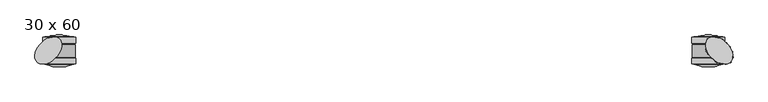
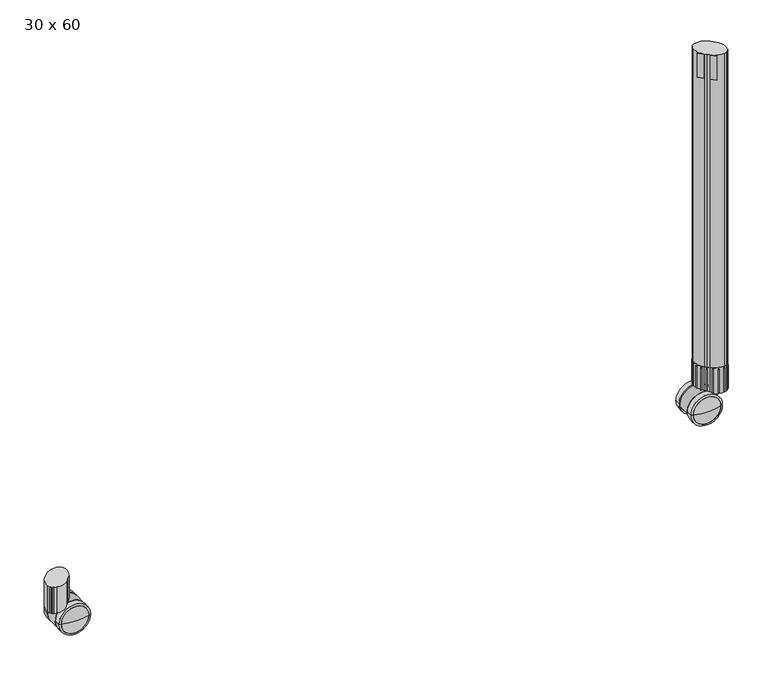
"""IFC4 building model written with IfcOpenShell, lengths in millimetres: furniture geometry, SmithSystem_AM_Desking_Education_Interchange_Student_Activity : 30 x 60."""

from ifc_helpers import new_model, si_unit, point, frame, frame_2d, origin, place, context, project, spatial, polyline, circle_curve, ellipse_curve, trimmed, segment, composite_curve, outline, extrude, source, transform, mapped, element, save
from ifc_brep_helpers import plane_surface, cylinder_surface, revolved_surface, advanced_brep


def furniture_30_x_60_af1b8cdd(model_context):
    return source(origin(), model_context, "Body", "SolidModel", [
        advanced_brep(
        [(1479.3682807, 686.5171568, 35.017382), (1418.7629669, 686.5171568, 35.017382), (1418.7629669, 673.2758867, 35.017382), (1479.3682807, 673.2758867, 35.017382), (1483.6326573, 686.5171568, 35.017382), (1414.4985903, 686.5171568, 35.017382), (1483.6326573, 674.7474734, 35.017382), (1414.4985903, 674.7474734, 35.017382)],
        [
            (0, 1, circle_curve(frame((1449.0656238, 686.5171568, 35.017382), z_axis=(0.0, 1.0, 0.0), x_axis=(-1.0000000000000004, 0.0, 0.0)), 30.3026569)),
            (1, 2),
            (2, 3, circle_curve(frame((1449.0656238, 673.2758867, 35.017382), z_axis=(0.0, -1.0, 0.0), x_axis=(-1.0000000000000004, 0.0, 0.0)), 30.3026569)),
            (3, 0),
            (1, 0, circle_curve(frame((1449.0656238, 686.5171568, 35.017382), z_axis=(0.0, 1.0, 0.0), x_axis=(-1.0000000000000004, 0.0, 0.0)), 30.3026569)),
            (3, 2, circle_curve(frame((1449.0656238, 673.2758867, 35.017382), z_axis=(0.0, -1.0, 0.0), x_axis=(-1.0000000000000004, 0.0, 0.0)), 30.3026569)),
            (4, 5, circle_curve(frame((1449.0656238, 686.5171568, 35.017382), z_axis=(0.0, 1.0, 0.0), x_axis=(-1.0000000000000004, 0.0, 0.0)), 34.5670335)),
            (5, 1),
            (0, 4),
            (5, 4, circle_curve(frame((1449.0656238, 686.5171568, 35.017382), z_axis=(0.0, 1.0, 0.0), x_axis=(-1.0000000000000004, 0.0, 0.0)), 34.5670335)),
            (6, 7, circle_curve(frame((1449.0656238, 674.7474734, 35.017382), z_axis=(0.0, 1.0, 0.0), x_axis=(-1.0000000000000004, 0.0, 0.0)), 34.5670335)),
            (7, 5),
            (4, 6),
            (7, 6, circle_curve(frame((1449.0656238, 674.7474734, 35.017382), z_axis=(0.0, 1.0, 0.0), x_axis=(-1.0000000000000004, 0.0, 0.0)), 34.5670335)),
            (2, 7),
            (6, 3),
        ],
        [
            revolved_surface(polyline([(1418.7629668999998, 673.2758867, 35.017382), (1418.7629668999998, 686.5171568, 35.017382)]), (1449.0656238, 686.5171568, 35.017382), (0.0, -1.0, 0.0)),
            plane_surface(frame((1449.0656238, 686.5171568, 35.017382), z_axis=(0.0, 1.0, 0.0), x_axis=(-1.0, 0.0, 0.0))),
            cylinder_surface(frame((1449.0656238, 686.5171568, 35.017382), z_axis=(0.0, -1.0, 0.0), x_axis=(-1.0000000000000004, 0.0, 0.0)), 34.5670335),
            revolved_surface(polyline([(1414.4985903, 674.7474734, 35.017382), (1418.7629669, 673.2758867, 35.017382)]), (1449.0656238, 686.5171568, 35.017382), (0.0, -1.0, 0.0)),
        ],
        [
            (0, [[1, 2, 3, 4]]),
            (0, [[5, -4, 6, -2]]),
            (1, [[7, 8, -1, 9]]),
            (1, [[10, -9, -5, -8]]),
            (2, [[11, 12, -7, 13]]),
            (2, [[14, -13, -10, -12]]),
            (3, [[-3, 15, -11, 16]]),
            (3, [[-6, -16, -14, -15]]),
        ],
    ),
        advanced_brep(
        [(1483.6326573, 730.1295585, 35.017382), (1414.4985903, 730.1295585, 35.017382), (1418.7629669, 731.6011452, 35.017382), (1479.3682807, 731.6011452, 35.017382), (1483.6326573, 718.3598751, 35.017382), (1414.4985903, 718.3598751, 35.017382), (1479.3682807, 718.3598751, 35.017382), (1418.7629669, 718.3598751, 35.017382)],
        [
            (0, 1, circle_curve(frame((1449.0656238, 730.1295585, 35.017382), z_axis=(0.0, 1.0, 0.0), x_axis=(-1.0000000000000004, 0.0, 0.0)), 34.5670335)),
            (1, 2),
            (2, 3, circle_curve(frame((1449.0656238, 731.6011452, 35.017382), z_axis=(0.0, -1.0, 0.0), x_axis=(-1.0000000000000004, 0.0, 0.0)), 30.3026569)),
            (3, 0),
            (1, 0, circle_curve(frame((1449.0656238, 730.1295585, 35.017382), z_axis=(0.0, 1.0, 0.0), x_axis=(-1.0000000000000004, 0.0, 0.0)), 34.5670335)),
            (3, 2, circle_curve(frame((1449.0656238, 731.6011452, 35.017382), z_axis=(0.0, -1.0, 0.0), x_axis=(-1.0000000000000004, 0.0, 0.0)), 30.3026569)),
            (4, 5, circle_curve(frame((1449.0656238, 718.3598751, 35.017382), z_axis=(0.0, 1.0, 0.0), x_axis=(-1.0000000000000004, 0.0, 0.0)), 34.5670335)),
            (5, 1),
            (0, 4),
            (5, 4, circle_curve(frame((1449.0656238, 718.3598751, 35.017382), z_axis=(0.0, 1.0, 0.0), x_axis=(-1.0000000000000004, 0.0, 0.0)), 34.5670335)),
            (6, 7, circle_curve(frame((1449.0656238, 718.3598751, 35.017382), z_axis=(0.0, 1.0, 0.0), x_axis=(-1.0000000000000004, 0.0, 0.0)), 30.3026569)),
            (7, 5),
            (4, 6),
            (7, 6, circle_curve(frame((1449.0656238, 718.3598751, 35.017382), z_axis=(0.0, 1.0, 0.0), x_axis=(-1.0000000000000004, 0.0, 0.0)), 30.3026569)),
            (2, 7),
            (6, 3),
        ],
        [
            revolved_surface(polyline([(1418.7629669, 731.6011452, 35.017382), (1414.4985903, 730.1295585, 35.017382)]), (1449.0656238, 686.5171568, 35.017382), (0.0, -1.0, 0.0)),
            cylinder_surface(frame((1449.0656238, 686.5171568, 35.017382), z_axis=(0.0, -1.0, 0.0), x_axis=(-1.0000000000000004, 0.0, 0.0)), 34.5670335),
            plane_surface(frame((1449.0656238, 718.3598751, 35.017382), z_axis=(0.0, -1.0, 0.0), x_axis=(-1.0, 0.0, 0.0))),
            revolved_surface(polyline([(1418.7629668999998, 718.3598751, 35.017382), (1418.7629668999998, 731.6011452, 35.017382)]), (1449.0656238, 686.5171568, 35.017382), (0.0, -1.0, 0.0)),
        ],
        [
            (0, [[1, 2, 3, 4]]),
            (0, [[5, -4, 6, -2]]),
            (1, [[7, 8, -1, 9]]),
            (1, [[10, -9, -5, -8]]),
            (2, [[11, 12, -7, 13]]),
            (2, [[14, -13, -10, -12]]),
            (3, [[-3, 15, -11, 16]]),
            (3, [[-6, -16, -14, -15]]),
        ],
    ),
        extrude(outline(composite_curve([segment(polyline([(19.2150301, 1452.4697558), (19.2150301, 1479.476395)]), True, "CONTINUOUS"), segment(trimmed(circle_curve(frame_2d((35.017382, 1449.0656238)), 34.2714069), [point((19.2150301, 1479.476395))], [point((30.4371053, 1415.1016665))], False, "CARTESIAN"), True, "CONTINUOUS"), segment(polyline([(30.4371053, 1415.1016665), (25.5146264, 1423.9644339), (25.5146264, 1446.1701594), (19.2150301, 1452.4697558)]), True, "CONTINUOUS")], self_intersect=False)), frame((0.0, 688.2472519, 0.0), z_axis=(0.0, 1.0, 0.0), x_axis=(0.0, 0.0, 1.0)), (0.0, 0.0, 1.0), 26.9875),
        advanced_brep(
        [(1479.3682807, 686.5171568, 35.017382), (1418.7629669, 686.5171568, 35.017382), (1449.0656238, 686.5171568, 35.017382), (1449.0656238, 668.1943698, 35.017382), (1418.7629669, 673.2758867, 35.017382), (1479.3682807, 673.2758867, 35.017382)],
        [
            (0, 1, circle_curve(frame((1449.0656238, 686.5171568, 35.017382), z_axis=(0.0, 1.0, 0.0), x_axis=(-1.0000000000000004, 0.0, 0.0)), 30.3026569)),
            (1, 2),
            (2, 0),
            (1, 0, circle_curve(frame((1449.0656238, 686.5171568, 35.017382), z_axis=(0.0, 1.0, 0.0), x_axis=(-1.0000000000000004, 0.0, 0.0)), 30.3026569)),
            (3, 4, circle_curve(frame((1449.0656238, 761.0871862, 35.017382), z_axis=(0.0, 0.0, -1.0000000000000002), x_axis=(0.0, 1.0, 0.0)), 92.8928164)),
            (4, 5, circle_curve(frame((1449.0656238, 673.2758867, 35.017382), z_axis=(0.0, -1.0, 0.0), x_axis=(-1.0000000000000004, 0.0, 0.0)), 30.3026569)),
            (5, 3, circle_curve(frame((1449.0656238, 761.0871862, 35.017382), z_axis=(0.0, 0.0, -1.0000000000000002), x_axis=(0.0, 1.0, 0.0)), 92.8928164)),
            (5, 4, circle_curve(frame((1449.0656238, 673.2758867, 35.017382), z_axis=(0.0, -1.0, 0.0), x_axis=(-1.0000000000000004, 0.0, 0.0)), 30.3026569)),
            (4, 1),
            (0, 5),
        ],
        [
            plane_surface(frame((1449.0656238, 686.5171568, 35.017382), z_axis=(0.0, 1.0, 0.0), x_axis=(-1.0, 0.0, 0.0))),
            revolved_surface(trimmed(ellipse_curve(frame((1449.0656238, 761.0871862, 35.017382), z_axis=(0.0, 0.0, 1.0000000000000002), x_axis=(0.0, 1.0, 0.0)), 92.8928164, 92.8928164), [point((1418.7629669, 673.2758867, 35.017382))], [point((1449.0656238, 668.1943698, 35.017382))], True, "CARTESIAN"), (1449.0656238, 686.5171568, 35.017382), (0.0, -1.0, 0.0)),
            cylinder_surface(frame((1449.0656238, 686.5171568, 35.017382), z_axis=(0.0, -1.0, 0.0), x_axis=(-1.0000000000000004, 0.0, 0.0)), 30.3026569),
        ],
        [
            (0, [[1, 2, 3]]),
            (0, [[4, -3, -2]]),
            (1, [[5, 6, 7]]),
            (1, [[-7, 8, -5]]),
            (2, [[-6, 9, -1, 10]]),
            (2, [[-8, -10, -4, -9]]),
        ],
    ),
        advanced_brep(
        [(1479.3682807, 717.1194939, 35.017382), (1418.7629669, 717.1194939, 35.017382), (1418.7629669, 730.360764, 35.017382), (1479.3682807, 730.360764, 35.017382), (1449.0656238, 735.4422809, 35.017382), (1449.0656238, 717.1194939, 35.017382)],
        [
            (0, 1, circle_curve(frame((1449.0656238, 717.1194939, 35.017382), z_axis=(0.0, 1.0, 0.0), x_axis=(-1.0000000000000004, 0.0, 0.0)), 30.3026569)),
            (1, 2),
            (2, 3, circle_curve(frame((1449.0656238, 730.360764, 35.017382), z_axis=(0.0, -1.0, 0.0), x_axis=(-1.0000000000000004, 0.0, 0.0)), 30.3026569)),
            (3, 0),
            (1, 0, circle_curve(frame((1449.0656238, 717.1194939, 35.017382), z_axis=(0.0, 1.0, 0.0), x_axis=(-1.0000000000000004, 0.0, 0.0)), 30.3026569)),
            (3, 2, circle_curve(frame((1449.0656238, 730.360764, 35.017382), z_axis=(0.0, -1.0, 0.0), x_axis=(-1.0000000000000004, 0.0, 0.0)), 30.3026569)),
            (2, 4, circle_curve(frame((1449.0656238, 642.5494645, 35.017382), z_axis=(0.0, 0.0, -1.0000000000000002), x_axis=(0.0, 1.0, 0.0)), 92.8928164)),
            (4, 3, circle_curve(frame((1449.0656238, 642.5494645, 35.017382), z_axis=(0.0, 0.0, -1.0000000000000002), x_axis=(0.0, 1.0, 0.0)), 92.8928164)),
            (5, 1),
            (0, 5),
        ],
        [
            cylinder_surface(frame((1449.0656238, 686.5171568, 35.017382), z_axis=(0.0, -1.0, 0.0), x_axis=(-1.0000000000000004, 0.0, 0.0)), 30.3026569),
            revolved_surface(trimmed(ellipse_curve(frame((1449.0656238, 642.5494645, 35.017382), z_axis=(0.0, 0.0, 1.0000000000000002), x_axis=(0.0, 1.0, 0.0)), 92.8928164, 92.8928164), [point((1449.0656238, 735.4422809, 35.017382))], [point((1418.7629669, 730.360764, 35.017382))], True, "CARTESIAN"), (1449.0656238, 686.5171568, 35.017382), (0.0, -1.0, 0.0)),
            plane_surface(frame((1449.0656238, 717.1194939, 35.017382), z_axis=(0.0, -1.0, 0.0), x_axis=(-1.0, 0.0, 0.0))),
        ],
        [
            (0, [[1, 2, 3, 4]]),
            (0, [[5, -4, 6, -2]]),
            (1, [[-3, 7, 8]]),
            (1, [[-6, -8, -7]]),
            (2, [[9, -1, 10]]),
            (2, [[-10, -5, -9]]),
        ],
    ),
        advanced_brep(
        [(1472.3098504, 702.4385159, 82.55), (1457.1881611, 687.3168266, 82.55), (1487.4315397, 717.5602052, 82.55), (1479.1455485, 709.274214, 44.141232), (1465.4741524, 695.6028179, 44.141232), (1472.3098504, 702.4385159, 44.141232), (1479.1455485, 709.274214, 70.5739), (1465.4741524, 695.6028179, 70.5739), (1475.4087581, 705.5374236, 70.5739), (1469.2109428, 699.3396083, 70.5739), (1475.4087581, 705.5374236, 72.4789), (1469.2109428, 699.3396083, 72.4789), (1479.1455485, 709.274214, 72.4789), (1465.4741524, 695.6028179, 72.4789), (1479.1455485, 709.274214, 77.5589), (1465.4741524, 695.6028179, 77.5589), (1487.4315397, 717.5602052, 77.5589), (1457.1881611, 687.3168266, 77.5589)],
        [
            (0, 1),
            (1, 2, circle_curve(frame((1472.3098504, 702.4385159, 82.55), z_axis=(0.0, 0.0, 1.0), x_axis=(-0.7071067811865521, -0.707106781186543, 0.0)), 21.3852981)),
            (2, 0),
            (2, 1, circle_curve(frame((1472.3098504, 702.4385159, 82.55), z_axis=(0.0, 0.0, 1.0), x_axis=(-0.7071067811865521, -0.707106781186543, 0.0)), 21.3852981)),
            (3, 4, circle_curve(frame((1472.3098504, 702.4385159, 44.141232), z_axis=(0.0, 0.0, -1.0), x_axis=(-0.7071067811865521, -0.707106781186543, 0.0)), 9.6671369)),
            (4, 5),
            (5, 3),
            (4, 3, circle_curve(frame((1472.3098504, 702.4385159, 44.141232), z_axis=(0.0, 0.0, -1.0), x_axis=(-0.7071067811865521, -0.707106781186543, 0.0)), 9.6671369)),
            (6, 7, circle_curve(frame((1472.3098504, 702.4385159, 70.5739), z_axis=(0.0, 0.0, -1.0), x_axis=(-0.7071067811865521, -0.707106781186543, 0.0)), 9.6671369)),
            (7, 4),
            (3, 6),
            (7, 6, circle_curve(frame((1472.3098504, 702.4385159, 70.5739), z_axis=(0.0, 0.0, -1.0), x_axis=(-0.7071067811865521, -0.707106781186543, 0.0)), 9.6671369)),
            (8, 9, circle_curve(frame((1472.3098504, 702.4385159, 70.5739), z_axis=(0.0, 0.0, -1.0), x_axis=(-0.7071067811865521, -0.707106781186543, 0.0)), 4.3825172)),
            (9, 7),
            (6, 8),
            (9, 8, circle_curve(frame((1472.3098504, 702.4385159, 70.5739), z_axis=(0.0, 0.0, -1.0), x_axis=(-0.7071067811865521, -0.707106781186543, 0.0)), 4.3825172)),
            (10, 11, circle_curve(frame((1472.3098504, 702.4385159, 72.4789), z_axis=(0.0, 0.0, -1.0), x_axis=(-0.7071067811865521, -0.707106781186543, 0.0)), 4.3825172)),
            (11, 9),
            (8, 10),
            (11, 10, circle_curve(frame((1472.3098504, 702.4385159, 72.4789), z_axis=(0.0, 0.0, -1.0), x_axis=(-0.7071067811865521, -0.707106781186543, 0.0)), 4.3825172)),
            (12, 13, circle_curve(frame((1472.3098504, 702.4385159, 72.4789), z_axis=(0.0, 0.0, -1.0), x_axis=(-0.7071067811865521, -0.707106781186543, 0.0)), 9.6671369)),
            (13, 11),
            (10, 12),
            (13, 12, circle_curve(frame((1472.3098504, 702.4385159, 72.4789), z_axis=(0.0, 0.0, -1.0), x_axis=(-0.7071067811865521, -0.707106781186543, 0.0)), 9.6671369)),
            (14, 15, circle_curve(frame((1472.3098504, 702.4385159, 77.5589), z_axis=(0.0, 0.0, -1.0), x_axis=(-0.7071067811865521, -0.707106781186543, 0.0)), 9.6671369)),
            (15, 13),
            (12, 14),
            (15, 14, circle_curve(frame((1472.3098504, 702.4385159, 77.5589), z_axis=(0.0, 0.0, -1.0), x_axis=(-0.7071067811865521, -0.707106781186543, 0.0)), 9.6671369)),
            (16, 17, circle_curve(frame((1472.3098504, 702.4385159, 77.5589), z_axis=(0.0, 0.0, -1.0), x_axis=(-0.7071067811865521, -0.707106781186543, 0.0)), 21.3852981)),
            (17, 15),
            (14, 16),
            (17, 16, circle_curve(frame((1472.3098504, 702.4385159, 77.5589), z_axis=(0.0, 0.0, -1.0), x_axis=(-0.7071067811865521, -0.707106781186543, 0.0)), 21.3852981)),
            (1, 17),
            (16, 2),
        ],
        [
            plane_surface(frame((1472.3098504, 702.4385159, 82.55), z_axis=(0.0, 0.0, 1.0000000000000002), x_axis=(-0.7071067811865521, -0.707106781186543, 0.0))),
            plane_surface(frame((1472.3098504, 702.4385159, 44.141232), z_axis=(0.0, 0.0, -1.0000000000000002), x_axis=(-0.7071067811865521, -0.707106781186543, 0.0))),
            cylinder_surface(frame((1472.3098504, 702.4385159, 56.841232), z_axis=(0.0, 0.0, 1.0), x_axis=(-0.7071067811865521, -0.707106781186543, 0.0)), 9.6671369),
            plane_surface(frame((1472.3098504, 702.4385159, 70.5739), z_axis=(0.0, 0.0, 1.0000000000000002), x_axis=(-0.7071067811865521, -0.707106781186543, 0.0))),
            cylinder_surface(frame((1472.3098504, 702.4385159, 56.841232), z_axis=(0.0, 0.0, 1.0), x_axis=(-0.7071067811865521, -0.707106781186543, 0.0)), 4.3825172),
            plane_surface(frame((1472.3098504, 702.4385159, 72.4789), z_axis=(0.0, 0.0, -1.0000000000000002), x_axis=(-0.7071067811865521, -0.707106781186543, 0.0))),
            plane_surface(frame((1472.3098504, 702.4385159, 77.5589), z_axis=(0.0, 0.0, -1.0000000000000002), x_axis=(-0.7071067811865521, -0.707106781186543, 0.0))),
            cylinder_surface(frame((1472.3098504, 702.4385159, 56.841232), z_axis=(0.0, 0.0, 1.0), x_axis=(-0.7071067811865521, -0.707106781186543, 0.0)), 21.3852981),
        ],
        [
            (0, [[1, 2, 3]]),
            (0, [[-3, 4, -1]]),
            (1, [[5, 6, 7]]),
            (1, [[8, -7, -6]]),
            (2, [[9, 10, -5, 11]]),
            (2, [[12, -11, -8, -10]]),
            (3, [[13, 14, -9, 15]]),
            (3, [[16, -15, -12, -14]]),
            (4, [[17, 18, -13, 19]]),
            (4, [[20, -19, -16, -18]]),
            (5, [[21, 22, -17, 23]]),
            (5, [[24, -23, -20, -22]]),
            (2, [[25, 26, -21, 27]]),
            (2, [[28, -27, -24, -26]]),
            (6, [[29, 30, -25, 31]]),
            (6, [[32, -31, -28, -30]]),
            (7, [[-2, 33, -29, 34]]),
            (7, [[-4, -34, -32, -33]]),
        ],
    ),
        extrude(outline(composite_curve([segment(trimmed(circle_curve(frame_2d((1476.4964298, 713.8093002)), 32.5855406), [point((1453.4549731, 690.7678435))], [point((1444.1537769, 717.7804787))], False, "CARTESIAN"), True, "CONTINUOUS"), segment(trimmed(circle_curve(frame_2d((1463.6817209, 715.3827486)), 19.6745954), [point((1444.1537769, 717.7804787))], [point((1445.5137305, 722.9334989))], False, "CARTESIAN"), True, "CONTINUOUS"), segment(trimmed(circle_curve(frame_2d((1453.7793536, 719.4982452)), 8.9510611), [point((1445.5137305, 722.9334989))], [point((1447.4499976, 725.8276012))], False, "CARTESIAN"), True, "CONTINUOUS"), segment(polyline([(1447.4499976, 725.8276012), (1448.1853814, 726.5629849), (1448.9207652, 727.2983687)]), True, "CONTINUOUS"), segment(trimmed(circle_curve(frame_2d((1455.2501212, 720.9690127)), 8.9510611), [point((1448.9207652, 727.2983687))], [point((1451.8148675, 729.2346359))], False, "CARTESIAN"), True, "CONTINUOUS"), segment(trimmed(circle_curve(frame_2d((1459.3656177, 711.0666455)), 19.6745954), [point((1451.8148675, 729.2346359))], [point((1456.9678877, 730.5945895))], False, "CARTESIAN"), True, "CONTINUOUS"), segment(trimmed(circle_curve(frame_2d((1460.9390661, 698.2519365)), 32.5855406), [point((1456.9678877, 730.5945895))], [point((1483.9805229, 721.2933933))], False, "CARTESIAN"), True, "CONTINUOUS"), segment(polyline([(1483.9805229, 721.2933933), (1487.5726253, 717.7012908), (1491.1647278, 714.1091884)]), True, "CONTINUOUS"), segment(trimmed(circle_curve(frame_2d((1468.123271, 691.0677316)), 32.5855406), [point((1491.1647278, 714.1091884))], [point((1500.465924, 687.0965532))], False, "CARTESIAN"), True, "CONTINUOUS"), segment(trimmed(circle_curve(frame_2d((1480.93798, 689.4942832)), 19.6745954), [point((1500.465924, 687.0965532))], [point((1499.1059704, 681.943533))], False, "CARTESIAN"), True, "CONTINUOUS"), segment(trimmed(circle_curve(frame_2d((1490.8403472, 685.3787867)), 8.9510611), [point((1499.1059704, 681.943533))], [point((1497.1697032, 679.0494307))], False, "CARTESIAN"), True, "CONTINUOUS"), segment(polyline([(1497.1697032, 679.0494307), (1496.4343195, 678.3140469), (1495.6989357, 677.5786631)]), True, "CONTINUOUS"), segment(trimmed(circle_curve(frame_2d((1489.3695797, 683.9080191)), 8.9510611), [point((1495.6989357, 677.5786631))], [point((1492.8048334, 675.6423959))], False, "CARTESIAN"), True, "CONTINUOUS"), segment(trimmed(circle_curve(frame_2d((1485.2540831, 693.8103864)), 19.6745954), [point((1492.8048334, 675.6423959))], [point((1487.6518132, 674.2824424))], False, "CARTESIAN"), True, "CONTINUOUS"), segment(trimmed(circle_curve(frame_2d((1483.6806347, 706.6250953)), 32.5855406), [point((1487.6518132, 674.2824424))], [point((1460.639178, 683.5836386))], False, "CARTESIAN"), True, "CONTINUOUS"), segment(polyline([(1460.639178, 683.5836386), (1457.0470756, 687.175741), (1453.4549731, 690.7678435)]), True, "CONTINUOUS")], self_intersect=False)), frame((0.0, 0.0, 63.4997351), z_axis=(0.0, 0.0, 1.0), x_axis=(1.0, 0.0, 0.0)), (0.0, 0.0, 1.0), 59.42631),
        extrude(outline(composite_curve([segment(polyline([(1488.4706509, 716.8032652), (1487.5726253, 717.7012908), (1486.6745997, 718.5993164)]), True, "CONTINUOUS"), segment(trimmed(circle_curve(frame_2d((1487.5726253, 717.7012908)), 1.27), [point((1486.6745997, 718.5993164))], [point((1488.4706509, 716.8032652))], False, "CARTESIAN"), True, "CONTINUOUS")], self_intersect=False)), frame((0.0, 0.0, 67.2639757), z_axis=(0.0, 0.0, 1.0), x_axis=(1.0, 0.0, 0.0)), (0.0, 0.0, 1.0), 52.9554897),
        extrude(outline(composite_curve([segment(polyline([(1495.5099845, 677.4423306), (1496.4080101, 678.3403563), (1497.3060357, 679.2383819)]), True, "CONTINUOUS"), segment(trimmed(circle_curve(frame_2d((1496.4080101, 678.3403563)), 1.27), [point((1497.3060357, 679.2383819))], [point((1495.5099845, 677.4423306))], False, "CARTESIAN"), True, "CONTINUOUS")], self_intersect=False)), frame((0.0, 0.0, 67.2639757), z_axis=(0.0, 0.0, 1.0), x_axis=(1.0, 0.0, 0.0)), (0.0, 0.0, 1.0), 52.9554897),
        extrude(outline(composite_curve([segment(trimmed(circle_curve(frame_2d((1448.2116908, 726.5366756)), 1.27), [point((1447.3136652, 725.63865))], [point((1449.1097164, 727.4347012))], False, "CARTESIAN"), True, "CONTINUOUS"), segment(polyline([(1449.1097164, 727.4347012), (1448.2116908, 726.5366756), (1447.3136652, 725.63865)]), True, "CONTINUOUS")], self_intersect=False)), frame((0.0, 0.0, 67.2639757), z_axis=(0.0, 0.0, 1.0), x_axis=(1.0, 0.0, 0.0)), (0.0, 0.0, 1.0), 52.9554897),
        extrude(outline(composite_curve([segment(trimmed(circle_curve(frame_2d((1458.0779787, 730.6574596)), 1.27), [point((1456.8120338, 730.5560515))], [point((1459.3439236, 730.7588676))], False, "CARTESIAN"), True, "CONTINUOUS"), segment(polyline([(1459.3439236, 730.7588676), (1458.0779787, 730.6574596), (1456.8120338, 730.5560515)]), True, "CONTINUOUS")], self_intersect=False)), frame((0.0, 0.0, 67.2639757), z_axis=(0.0, 0.0, 1.0), x_axis=(1.0, 0.0, 0.0)), (0.0, 0.0, 1.0), 52.9554897),
        extrude(outline(composite_curve([segment(trimmed(circle_curve(frame_2d((1469.1209477, 729.7234059)), 1.27), [point((1467.8909581, 730.039674))], [point((1470.3509373, 729.4071377))], False, "CARTESIAN"), True, "CONTINUOUS"), segment(polyline([(1470.3509373, 729.4071377), (1469.1209477, 729.7234059), (1467.8909581, 730.039674)]), True, "CONTINUOUS")], self_intersect=False)), frame((0.0, 0.0, 67.2639757), z_axis=(0.0, 0.0, 1.0), x_axis=(1.0, 0.0, 0.0)), (0.0, 0.0, 1.0), 52.9554897),
        extrude(outline(composite_curve([segment(trimmed(circle_curve(frame_2d((1479.2770478, 725.1239568)), 1.27), [point((1478.2294057, 725.8418329))], [point((1480.3246899, 724.4060807))], False, "CARTESIAN"), True, "CONTINUOUS"), segment(polyline([(1480.3246899, 724.4060807), (1479.2770478, 725.1239568), (1478.2294057, 725.8418329)]), True, "CONTINUOUS")], self_intersect=False)), frame((0.0, 0.0, 67.2639757), z_axis=(0.0, 0.0, 1.0), x_axis=(1.0, 0.0, 0.0)), (0.0, 0.0, 1.0), 52.9554897),
        extrude(outline(composite_curve([segment(polyline([(1500.427386, 686.9406993), (1500.5287941, 688.2066442), (1500.6302021, 689.4725891)]), True, "CONTINUOUS"), segment(trimmed(circle_curve(frame_2d((1500.5287941, 688.2066442)), 1.27), [point((1500.6302021, 689.4725891))], [point((1500.427386, 686.9406993))], False, "CARTESIAN"), True, "CONTINUOUS")], self_intersect=False)), frame((0.0, 0.0, 67.2639757), z_axis=(0.0, 0.0, 1.0), x_axis=(1.0, 0.0, 0.0)), (0.0, 0.0, 1.0), 52.9554897),
        extrude(outline(composite_curve([segment(polyline([(1499.9110085, 698.0196236), (1499.5947404, 699.2496132), (1499.2784722, 700.4796028)]), True, "CONTINUOUS"), segment(trimmed(circle_curve(frame_2d((1499.5947404, 699.2496132)), 1.27), [point((1499.2784722, 700.4796028))], [point((1499.9110085, 698.0196236))], False, "CARTESIAN"), True, "CONTINUOUS")], self_intersect=False)), frame((0.0, 0.0, 67.2639757), z_axis=(0.0, 0.0, 1.0), x_axis=(1.0, 0.0, 0.0)), (0.0, 0.0, 1.0), 52.9554897),
        extrude(outline(composite_curve([segment(polyline([(1495.7131674, 708.3580712), (1494.9952913, 709.4057133), (1494.2774152, 710.4533554)]), True, "CONTINUOUS"), segment(trimmed(circle_curve(frame_2d((1494.9952913, 709.4057133)), 1.27), [point((1494.2774152, 710.4533554))], [point((1495.7131674, 708.3580712))], False, "CARTESIAN"), True, "CONTINUOUS")], self_intersect=False)), frame((0.0, 0.0, 67.2639757), z_axis=(0.0, 0.0, 1.0), x_axis=(1.0, 0.0, 0.0)), (0.0, 0.0, 1.0), 52.9554897),
        extrude(outline(composite_curve([segment(trimmed(circle_curve(frame_2d((1457.0470756, 687.175741)), 1.27), [point((1457.9451012, 686.2777154))], [point((1456.1490499, 688.0737667))], False, "CARTESIAN"), True, "CONTINUOUS"), segment(polyline([(1456.1490499, 688.0737667), (1457.0470756, 687.175741), (1457.9451012, 686.2777154)]), True, "CONTINUOUS")], self_intersect=False)), frame((0.0, 0.0, 67.2639757), z_axis=(0.0, 0.0, 1.0), x_axis=(1.0, 0.0, 0.0)), (0.0, 0.0, 1.0), 52.9554897),
        extrude(outline(composite_curve([segment(polyline([(1444.1923149, 717.9363325), (1444.0909068, 716.6703877), (1443.9894988, 715.4044428)]), True, "CONTINUOUS"), segment(trimmed(circle_curve(frame_2d((1444.0909068, 716.6703877)), 1.27), [point((1443.9894988, 715.4044428))], [point((1444.1923149, 717.9363325))], False, "CARTESIAN"), True, "CONTINUOUS")], self_intersect=False)), frame((0.0, 0.0, 67.2639757), z_axis=(0.0, 0.0, 1.0), x_axis=(1.0, 0.0, 0.0)), (0.0, 0.0, 1.0), 52.9554897),
        extrude(outline(composite_curve([segment(polyline([(1444.7086924, 706.8574083), (1445.0249605, 705.6274187), (1445.3412287, 704.397429)]), True, "CONTINUOUS"), segment(trimmed(circle_curve(frame_2d((1445.0249605, 705.6274187)), 1.27), [point((1445.3412287, 704.397429))], [point((1444.7086924, 706.8574083))], False, "CARTESIAN"), True, "CONTINUOUS")], self_intersect=False)), frame((0.0, 0.0, 67.2639757), z_axis=(0.0, 0.0, 1.0), x_axis=(1.0, 0.0, 0.0)), (0.0, 0.0, 1.0), 52.9554897),
        extrude(outline(composite_curve([segment(polyline([(1448.9065335, 696.5189606), (1449.6244096, 695.4713185), (1450.3422857, 694.4236765)]), True, "CONTINUOUS"), segment(trimmed(circle_curve(frame_2d((1449.6244096, 695.4713185)), 1.27), [point((1450.3422857, 694.4236765))], [point((1448.9065335, 696.5189606))], False, "CARTESIAN"), True, "CONTINUOUS")], self_intersect=False)), frame((0.0, 0.0, 67.2639757), z_axis=(0.0, 0.0, 1.0), x_axis=(1.0, 0.0, 0.0)), (0.0, 0.0, 1.0), 52.9554897),
        extrude(outline(composite_curve([segment(trimmed(circle_curve(frame_2d((1486.5417222, 674.2195723)), 1.27), [point((1487.807667, 674.3209803))], [point((1485.2757773, 674.1181643))], False, "CARTESIAN"), True, "CONTINUOUS"), segment(polyline([(1485.2757773, 674.1181643), (1486.5417222, 674.2195723), (1487.807667, 674.3209803)]), True, "CONTINUOUS")], self_intersect=False)), frame((0.0, 0.0, 67.2639757), z_axis=(0.0, 0.0, 1.0), x_axis=(1.0, 0.0, 0.0)), (0.0, 0.0, 1.0), 52.9554897),
        extrude(outline(composite_curve([segment(trimmed(circle_curve(frame_2d((1475.4987532, 675.153626)), 1.27), [point((1476.7287428, 674.8373578))], [point((1474.2687635, 675.4698941))], False, "CARTESIAN"), True, "CONTINUOUS"), segment(polyline([(1474.2687635, 675.4698941), (1475.4987532, 675.153626), (1476.7287428, 674.8373578)]), True, "CONTINUOUS")], self_intersect=False)), frame((0.0, 0.0, 67.2639757), z_axis=(0.0, 0.0, 1.0), x_axis=(1.0, 0.0, 0.0)), (0.0, 0.0, 1.0), 52.9554897),
        extrude(outline(composite_curve([segment(trimmed(circle_curve(frame_2d((1465.3426531, 679.7530751)), 1.27), [point((1466.3902951, 679.035199))], [point((1464.295011, 680.4709511))], False, "CARTESIAN"), True, "CONTINUOUS"), segment(polyline([(1464.295011, 680.4709511), (1465.3426531, 679.7530751), (1466.3902951, 679.035199)]), True, "CONTINUOUS")], self_intersect=False)), frame((0.0, 0.0, 67.2639757), z_axis=(0.0, 0.0, 1.0), x_axis=(1.0, 0.0, 0.0)), (0.0, 0.0, 1.0), 52.9554897),
        extrude(outline(composite_curve([segment(polyline([(1483.9805229, 721.2933933), (1487.5726253, 717.7012908), (1491.1647278, 714.1091884)]), True, "CONTINUOUS"), segment(trimmed(circle_curve(frame_2d((1468.123271, 691.0677316)), 32.5855406), [point((1491.1647278, 714.1091884))], [point((1500.465924, 687.0965532))], False, "CARTESIAN"), True, "CONTINUOUS"), segment(trimmed(circle_curve(frame_2d((1480.93798, 689.4942832)), 19.6745954), [point((1500.465924, 687.0965532))], [point((1499.1059704, 681.943533))], False, "CARTESIAN"), True, "CONTINUOUS"), segment(trimmed(circle_curve(frame_2d((1490.8403472, 685.3787867)), 8.9510611), [point((1499.1059704, 681.943533))], [point((1497.1697032, 679.0494307))], False, "CARTESIAN"), True, "CONTINUOUS"), segment(polyline([(1497.1697032, 679.0494307), (1496.4343195, 678.3140469), (1495.6989357, 677.5786631)]), True, "CONTINUOUS"), segment(trimmed(circle_curve(frame_2d((1489.3695797, 683.9080191)), 8.9510611), [point((1495.6989357, 677.5786631))], [point((1492.8048334, 675.6423959))], False, "CARTESIAN"), True, "CONTINUOUS"), segment(trimmed(circle_curve(frame_2d((1485.2540831, 693.8103864)), 19.6745954), [point((1492.8048334, 675.6423959))], [point((1487.6518132, 674.2824424))], False, "CARTESIAN"), True, "CONTINUOUS"), segment(trimmed(circle_curve(frame_2d((1483.6806347, 706.6250953)), 32.5855406), [point((1487.6518132, 674.2824424))], [point((1460.639178, 683.5836386))], False, "CARTESIAN"), True, "CONTINUOUS"), segment(polyline([(1460.639178, 683.5836386), (1457.0470756, 687.175741), (1453.4549731, 690.7678435)]), True, "CONTINUOUS"), segment(trimmed(circle_curve(frame_2d((1476.4964298, 713.8093002)), 32.5855406), [point((1453.4549731, 690.7678435))], [point((1444.1537769, 717.7804787))], False, "CARTESIAN"), True, "CONTINUOUS"), segment(trimmed(circle_curve(frame_2d((1463.6817209, 715.3827486)), 19.6745954), [point((1444.1537769, 717.7804787))], [point((1445.5137305, 722.9334989))], False, "CARTESIAN"), True, "CONTINUOUS"), segment(trimmed(circle_curve(frame_2d((1453.7793536, 719.4982452)), 8.9510611), [point((1445.5137305, 722.9334989))], [point((1447.4499976, 725.8276012))], False, "CARTESIAN"), True, "CONTINUOUS"), segment(polyline([(1447.4499976, 725.8276012), (1448.1853814, 726.5629849), (1448.9207652, 727.2983687)]), True, "CONTINUOUS"), segment(trimmed(circle_curve(frame_2d((1455.2501212, 720.9690127)), 8.9510611), [point((1448.9207652, 727.2983687))], [point((1451.8148675, 729.2346359))], False, "CARTESIAN"), True, "CONTINUOUS"), segment(trimmed(circle_curve(frame_2d((1459.3656177, 711.0666455)), 19.6745954), [point((1451.8148675, 729.2346359))], [point((1456.9678877, 730.5945895))], False, "CARTESIAN"), True, "CONTINUOUS"), segment(trimmed(circle_curve(frame_2d((1460.9390661, 698.2519365)), 32.5855406), [point((1456.9678877, 730.5945895))], [point((1483.9805229, 721.2933933))], False, "CARTESIAN"), True, "CONTINUOUS")], self_intersect=False)), frame((0.0, 0.0, 122.9260451), z_axis=(0.0, 0.0, 1.0), x_axis=(1.0, 0.0, 0.0)), (0.0, 0.0, 1.0), 719.5839191),
        extrude(outline(polyline([(1473.606676, 676.8390473), (1470.2618157, 673.4941871), (1443.4201876, 700.3358152), (1446.7650478, 703.6806755), (1473.606676, 676.8390473)])), frame((0.0, 0.0, 786.4834421), z_axis=(0.0, 0.0, 1.0), x_axis=(1.0, 0.0, 0.0)), (0.0, 0.0, 1.0), 56.0265221),
        advanced_brep(
        [(44.3181701, 686.5171568, 35.017382), (44.3181701, 673.2758867, 35.017382), (104.9234839, 673.2758867, 35.017382), (104.9234839, 686.5171568, 35.017382), (40.0537935, 686.5171568, 35.017382), (109.1878605, 686.5171568, 35.017382), (40.0537935, 674.7474734, 35.017382), (109.1878605, 674.7474734, 35.017382)],
        [
            (0, 1),
            (1, 2, circle_curve(frame((74.620827, 673.2758867, 35.017382), z_axis=(0.0, -1.0, 0.0), x_axis=(1.0000000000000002, 0.0, 0.0)), 30.3026569)),
            (2, 3),
            (3, 0, circle_curve(frame((74.620827, 686.5171568, 35.017382), z_axis=(0.0, 1.0, 0.0), x_axis=(1.0000000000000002, 0.0, 0.0)), 30.3026569)),
            (2, 1, circle_curve(frame((74.620827, 673.2758867, 35.017382), z_axis=(0.0, -1.0, 0.0), x_axis=(1.0000000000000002, 0.0, 0.0)), 30.3026569)),
            (0, 3, circle_curve(frame((74.620827, 686.5171568, 35.017382), z_axis=(0.0, 1.0, 0.0), x_axis=(1.0000000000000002, 0.0, 0.0)), 30.3026569)),
            (4, 0),
            (3, 5),
            (5, 4, circle_curve(frame((74.620827, 686.5171568, 35.017382), z_axis=(0.0, 1.0, 0.0), x_axis=(1.0000000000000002, 0.0, 0.0)), 34.5670335)),
            (4, 5, circle_curve(frame((74.620827, 686.5171568, 35.017382), z_axis=(0.0, 1.0, 0.0), x_axis=(1.0000000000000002, 0.0, 0.0)), 34.5670335)),
            (6, 4),
            (5, 7),
            (7, 6, circle_curve(frame((74.620827, 674.7474734, 35.017382), z_axis=(0.0, 1.0, 0.0), x_axis=(1.0000000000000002, 0.0, 0.0)), 34.5670335)),
            (6, 7, circle_curve(frame((74.620827, 674.7474734, 35.017382), z_axis=(0.0, 1.0, 0.0), x_axis=(1.0000000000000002, 0.0, 0.0)), 34.5670335)),
            (1, 6),
            (7, 2),
        ],
        [
            revolved_surface(polyline([(104.92348390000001, 673.2758867, 35.017382), (104.92348390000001, 686.5171568, 35.017382)]), (74.620827, 686.5171568, 35.017382), (0.0, -1.0, 0.0)),
            plane_surface(frame((74.620827, 686.5171568, 35.017382), z_axis=(0.0, 1.0, 0.0), x_axis=(1.0, 0.0, 0.0))),
            cylinder_surface(frame((74.620827, 686.5171568, 35.017382), z_axis=(0.0, -1.0, 0.0), x_axis=(1.0000000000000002, 0.0, 0.0)), 34.5670335),
            revolved_surface(polyline([(109.1878605, 674.7474734, 35.017382), (104.9234839, 673.2758867, 35.017382)]), (74.620827, 686.5171568, 35.017382), (0.0, -1.0, 0.0)),
        ],
        [
            (0, [[1, 2, 3, 4]]),
            (0, [[-3, 5, -1, 6]]),
            (1, [[7, -4, 8, 9]]),
            (1, [[-8, -6, -7, 10]]),
            (2, [[11, -9, 12, 13]]),
            (2, [[-12, -10, -11, 14]]),
            (3, [[15, -13, 16, -2]]),
            (3, [[-16, -14, -15, -5]]),
        ],
    ),
        advanced_brep(
        [(40.0537935, 730.1295585, 35.017382), (44.3181701, 731.6011452, 35.017382), (104.9234839, 731.6011452, 35.017382), (109.1878605, 730.1295585, 35.017382), (40.0537935, 718.3598751, 35.017382), (109.1878605, 718.3598751, 35.017382), (44.3181701, 718.3598751, 35.017382), (104.9234839, 718.3598751, 35.017382)],
        [
            (0, 1),
            (1, 2, circle_curve(frame((74.620827, 731.6011452, 35.017382), z_axis=(0.0, -1.0, 0.0), x_axis=(1.0000000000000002, 0.0, 0.0)), 30.3026569)),
            (2, 3),
            (3, 0, circle_curve(frame((74.620827, 730.1295585, 35.017382), z_axis=(0.0, 1.0, 0.0), x_axis=(1.0000000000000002, 0.0, 0.0)), 34.5670335)),
            (2, 1, circle_curve(frame((74.620827, 731.6011452, 35.017382), z_axis=(0.0, -1.0, 0.0), x_axis=(1.0000000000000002, 0.0, 0.0)), 30.3026569)),
            (0, 3, circle_curve(frame((74.620827, 730.1295585, 35.017382), z_axis=(0.0, 1.0, 0.0), x_axis=(1.0000000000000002, 0.0, 0.0)), 34.5670335)),
            (4, 0),
            (3, 5),
            (5, 4, circle_curve(frame((74.620827, 718.3598751, 35.017382), z_axis=(0.0, 1.0, 0.0), x_axis=(1.0000000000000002, 0.0, 0.0)), 34.5670335)),
            (4, 5, circle_curve(frame((74.620827, 718.3598751, 35.017382), z_axis=(0.0, 1.0, 0.0), x_axis=(1.0000000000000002, 0.0, 0.0)), 34.5670335)),
            (6, 4),
            (5, 7),
            (7, 6, circle_curve(frame((74.620827, 718.3598751, 35.017382), z_axis=(0.0, 1.0, 0.0), x_axis=(1.0000000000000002, 0.0, 0.0)), 30.3026569)),
            (6, 7, circle_curve(frame((74.620827, 718.3598751, 35.017382), z_axis=(0.0, 1.0, 0.0), x_axis=(1.0000000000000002, 0.0, 0.0)), 30.3026569)),
            (1, 6),
            (7, 2),
        ],
        [
            revolved_surface(polyline([(104.9234839, 731.6011452, 35.017382), (109.1878605, 730.1295585, 35.017382)]), (74.620827, 686.5171568, 35.017382), (0.0, -1.0, 0.0)),
            cylinder_surface(frame((74.620827, 686.5171568, 35.017382), z_axis=(0.0, -1.0, 0.0), x_axis=(1.0000000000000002, 0.0, 0.0)), 34.5670335),
            plane_surface(frame((74.620827, 718.3598751, 35.017382), z_axis=(0.0, -1.0, 0.0), x_axis=(1.0, 0.0, 0.0))),
            revolved_surface(polyline([(104.92348390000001, 718.3598751, 35.017382), (104.92348390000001, 731.6011452, 35.017382)]), (74.620827, 686.5171568, 35.017382), (0.0, -1.0, 0.0)),
        ],
        [
            (0, [[1, 2, 3, 4]]),
            (0, [[-3, 5, -1, 6]]),
            (1, [[7, -4, 8, 9]]),
            (1, [[-8, -6, -7, 10]]),
            (2, [[11, -9, 12, 13]]),
            (2, [[-12, -10, -11, 14]]),
            (3, [[15, -13, 16, -2]]),
            (3, [[-16, -14, -15, -5]]),
        ],
    ),
        extrude(outline(composite_curve([segment(polyline([(19.2150301, 71.216695), (25.5146264, 77.5162913), (25.5146264, 99.7220169), (30.4371053, 108.5847843)]), True, "CONTINUOUS"), segment(trimmed(circle_curve(frame_2d((35.017382, 74.620827)), 34.2714069), [point((30.4371053, 108.5847843))], [point((19.2150301, 44.2100558))], False, "CARTESIAN"), True, "CONTINUOUS"), segment(polyline([(19.2150301, 44.2100558), (19.2150301, 71.216695)]), True, "CONTINUOUS")], self_intersect=False)), frame((0.0, 688.2472519, 0.0), z_axis=(0.0, 1.0, 0.0), x_axis=(0.0, 0.0, 1.0)), (0.0, 0.0, 1.0), 26.9875),
        advanced_brep(
        [(44.3181701, 686.5171568, 35.017382), (74.620827, 686.5171568, 35.017382), (104.9234839, 686.5171568, 35.017382), (74.620827, 668.1943698, 35.017382), (44.3181701, 673.2758867, 35.017382), (104.9234839, 673.2758867, 35.017382)],
        [
            (0, 1),
            (1, 2),
            (2, 0, circle_curve(frame((74.620827, 686.5171568, 35.017382), z_axis=(0.0, 1.0, 0.0), x_axis=(1.0000000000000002, 0.0, 0.0)), 30.3026569)),
            (0, 2, circle_curve(frame((74.620827, 686.5171568, 35.017382), z_axis=(0.0, 1.0, 0.0), x_axis=(1.0000000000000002, 0.0, 0.0)), 30.3026569)),
            (3, 4, circle_curve(frame((74.620827, 761.0871862, 35.017382), z_axis=(0.0, 0.0, -1.0000000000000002), x_axis=(0.0, 1.0, 0.0)), 92.8928164)),
            (4, 5, circle_curve(frame((74.620827, 673.2758867, 35.017382), z_axis=(0.0, -1.0, 0.0), x_axis=(1.0000000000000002, 0.0, 0.0)), 30.3026569)),
            (5, 3, circle_curve(frame((74.620827, 761.0871862, 35.017382), z_axis=(0.0, 0.0, -1.0000000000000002), x_axis=(0.0, 1.0, 0.0)), 92.8928164)),
            (5, 4, circle_curve(frame((74.620827, 673.2758867, 35.017382), z_axis=(0.0, -1.0, 0.0), x_axis=(1.0000000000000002, 0.0, 0.0)), 30.3026569)),
            (4, 0),
            (2, 5),
        ],
        [
            plane_surface(frame((74.620827, 686.5171568, 35.017382), z_axis=(0.0, 1.0, 0.0), x_axis=(1.0, 0.0, 0.0))),
            revolved_surface(trimmed(ellipse_curve(frame((74.620827, 761.0871862, 35.017382), z_axis=(0.0, 0.0, -1.0000000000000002), x_axis=(0.0, 1.0, 0.0)), 92.8928164, 92.8928164), [point((104.9234839, 673.2758867, 35.017382))], [point((74.620827, 668.1943698, 35.017382))], True, "CARTESIAN"), (74.620827, 686.5171568, 35.017382), (0.0, -1.0, 0.0)),
            cylinder_surface(frame((74.620827, 686.5171568, 35.017382), z_axis=(0.0, -1.0, 0.0), x_axis=(1.0000000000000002, 0.0, 0.0)), 30.3026569),
        ],
        [
            (0, [[1, 2, 3]]),
            (0, [[-2, -1, 4]]),
            (1, [[5, 6, 7]]),
            (1, [[-7, 8, -5]]),
            (2, [[9, -3, 10, -6]]),
            (2, [[-10, -4, -9, -8]]),
        ],
    ),
        advanced_brep(
        [(44.3181701, 717.1194939, 35.017382), (44.3181701, 730.360764, 35.017382), (104.9234839, 730.360764, 35.017382), (104.9234839, 717.1194939, 35.017382), (74.620827, 735.4422809, 35.017382), (74.620827, 717.1194939, 35.017382)],
        [
            (0, 1),
            (1, 2, circle_curve(frame((74.620827, 730.360764, 35.017382), z_axis=(0.0, -1.0, 0.0), x_axis=(1.0000000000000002, 0.0, 0.0)), 30.3026569)),
            (2, 3),
            (3, 0, circle_curve(frame((74.620827, 717.1194939, 35.017382), z_axis=(0.0, 1.0, 0.0), x_axis=(1.0000000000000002, 0.0, 0.0)), 30.3026569)),
            (2, 1, circle_curve(frame((74.620827, 730.360764, 35.017382), z_axis=(0.0, -1.0, 0.0), x_axis=(1.0000000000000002, 0.0, 0.0)), 30.3026569)),
            (0, 3, circle_curve(frame((74.620827, 717.1194939, 35.017382), z_axis=(0.0, 1.0, 0.0), x_axis=(1.0000000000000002, 0.0, 0.0)), 30.3026569)),
            (1, 4, circle_curve(frame((74.620827, 642.5494645, 35.017382), z_axis=(0.0, 0.0, -1.0000000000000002), x_axis=(0.0, 1.0, 0.0)), 92.8928164)),
            (4, 2, circle_curve(frame((74.620827, 642.5494645, 35.017382), z_axis=(0.0, 0.0, -1.0000000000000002), x_axis=(0.0, 1.0, 0.0)), 92.8928164)),
            (5, 0),
            (3, 5),
        ],
        [
            cylinder_surface(frame((74.620827, 686.5171568, 35.017382), z_axis=(0.0, -1.0, 0.0), x_axis=(1.0000000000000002, 0.0, 0.0)), 30.3026569),
            revolved_surface(trimmed(ellipse_curve(frame((74.620827, 642.5494645, 35.017382), z_axis=(0.0, 0.0, -1.0000000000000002), x_axis=(0.0, 1.0, 0.0)), 92.8928164, 92.8928164), [point((74.620827, 735.4422809, 35.017382))], [point((104.9234839, 730.360764, 35.017382))], True, "CARTESIAN"), (74.620827, 686.5171568, 35.017382), (0.0, -1.0, 0.0)),
            plane_surface(frame((74.620827, 717.1194939, 35.017382), z_axis=(0.0, -1.0, 0.0), x_axis=(1.0, 0.0, 0.0))),
        ],
        [
            (0, [[1, 2, 3, 4]]),
            (0, [[-3, 5, -1, 6]]),
            (1, [[7, 8, -2]]),
            (1, [[-8, -7, -5]]),
            (2, [[9, -4, 10]]),
            (2, [[-10, -6, -9]]),
        ],
    ),
        advanced_brep(
        [(51.3766004, 702.4385159, 82.55), (36.2549111, 717.5602052, 82.55), (66.4982897, 687.3168266, 82.55), (44.5409023, 709.274214, 44.141232), (51.3766004, 702.4385159, 44.141232), (58.2122984, 695.6028179, 44.141232), (44.5409023, 709.274214, 70.5739), (58.2122984, 695.6028179, 70.5739), (48.2776927, 705.5374236, 70.5739), (54.475508, 699.3396083, 70.5739), (48.2776927, 705.5374236, 72.4789), (54.475508, 699.3396083, 72.4789), (44.5409023, 709.274214, 72.4789), (58.2122984, 695.6028179, 72.4789), (44.5409023, 709.274214, 77.5589), (58.2122984, 695.6028179, 77.5589), (36.2549111, 717.5602052, 77.5589), (66.4982897, 687.3168266, 77.5589)],
        [
            (0, 1),
            (1, 2, circle_curve(frame((51.3766004, 702.4385159, 82.55), z_axis=(0.0, 0.0, 1.0), x_axis=(0.707106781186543, -0.7071067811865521, 0.0)), 21.3852981)),
            (2, 0),
            (2, 1, circle_curve(frame((51.3766004, 702.4385159, 82.55), z_axis=(0.0, 0.0, 1.0), x_axis=(0.707106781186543, -0.7071067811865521, 0.0)), 21.3852981)),
            (3, 4),
            (4, 5),
            (5, 3, circle_curve(frame((51.3766004, 702.4385159, 44.141232), z_axis=(0.0, 0.0, -1.0), x_axis=(0.707106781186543, -0.7071067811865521, 0.0)), 9.6671369)),
            (3, 5, circle_curve(frame((51.3766004, 702.4385159, 44.141232), z_axis=(0.0, 0.0, -1.0), x_axis=(0.707106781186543, -0.7071067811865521, 0.0)), 9.6671369)),
            (6, 3),
            (5, 7),
            (7, 6, circle_curve(frame((51.3766004, 702.4385159, 70.5739), z_axis=(0.0, 0.0, -1.0), x_axis=(0.707106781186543, -0.7071067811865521, 0.0)), 9.6671369)),
            (6, 7, circle_curve(frame((51.3766004, 702.4385159, 70.5739), z_axis=(0.0, 0.0, -1.0), x_axis=(0.707106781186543, -0.7071067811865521, 0.0)), 9.6671369)),
            (8, 6),
            (7, 9),
            (9, 8, circle_curve(frame((51.3766004, 702.4385159, 70.5739), z_axis=(0.0, 0.0, -1.0), x_axis=(0.707106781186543, -0.7071067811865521, 0.0)), 4.3825172)),
            (8, 9, circle_curve(frame((51.3766004, 702.4385159, 70.5739), z_axis=(0.0, 0.0, -1.0), x_axis=(0.707106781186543, -0.7071067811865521, 0.0)), 4.3825172)),
            (10, 8),
            (9, 11),
            (11, 10, circle_curve(frame((51.3766004, 702.4385159, 72.4789), z_axis=(0.0, 0.0, -1.0), x_axis=(0.707106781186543, -0.7071067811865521, 0.0)), 4.3825172)),
            (10, 11, circle_curve(frame((51.3766004, 702.4385159, 72.4789), z_axis=(0.0, 0.0, -1.0), x_axis=(0.707106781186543, -0.7071067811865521, 0.0)), 4.3825172)),
            (12, 10),
            (11, 13),
            (13, 12, circle_curve(frame((51.3766004, 702.4385159, 72.4789), z_axis=(0.0, 0.0, -1.0), x_axis=(0.707106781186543, -0.7071067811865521, 0.0)), 9.6671369)),
            (12, 13, circle_curve(frame((51.3766004, 702.4385159, 72.4789), z_axis=(0.0, 0.0, -1.0), x_axis=(0.707106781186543, -0.7071067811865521, 0.0)), 9.6671369)),
            (14, 12),
            (13, 15),
            (15, 14, circle_curve(frame((51.3766004, 702.4385159, 77.5589), z_axis=(0.0, 0.0, -1.0), x_axis=(0.707106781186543, -0.7071067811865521, 0.0)), 9.6671369)),
            (14, 15, circle_curve(frame((51.3766004, 702.4385159, 77.5589), z_axis=(0.0, 0.0, -1.0), x_axis=(0.707106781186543, -0.7071067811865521, 0.0)), 9.6671369)),
            (16, 14),
            (15, 17),
            (17, 16, circle_curve(frame((51.3766004, 702.4385159, 77.5589), z_axis=(0.0, 0.0, -1.0), x_axis=(0.707106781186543, -0.7071067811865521, 0.0)), 21.3852981)),
            (16, 17, circle_curve(frame((51.3766004, 702.4385159, 77.5589), z_axis=(0.0, 0.0, -1.0), x_axis=(0.707106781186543, -0.7071067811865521, 0.0)), 21.3852981)),
            (1, 16),
            (17, 2),
        ],
        [
            plane_surface(frame((51.3766004, 702.4385159, 82.55), z_axis=(0.0, 0.0, 1.0000000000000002), x_axis=(0.707106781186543, -0.7071067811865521, 0.0))),
            plane_surface(frame((51.3766004, 702.4385159, 44.141232), z_axis=(0.0, 0.0, -1.0000000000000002), x_axis=(0.707106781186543, -0.7071067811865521, 0.0))),
            cylinder_surface(frame((51.3766004, 702.4385159, 56.841232), z_axis=(0.0, 0.0, 1.0), x_axis=(0.707106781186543, -0.7071067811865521, 0.0)), 9.6671369),
            plane_surface(frame((51.3766004, 702.4385159, 70.5739), z_axis=(0.0, 0.0, 1.0000000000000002), x_axis=(0.707106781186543, -0.7071067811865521, 0.0))),
            cylinder_surface(frame((51.3766004, 702.4385159, 56.841232), z_axis=(0.0, 0.0, 1.0), x_axis=(0.707106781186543, -0.7071067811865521, 0.0)), 4.3825172),
            plane_surface(frame((51.3766004, 702.4385159, 72.4789), z_axis=(0.0, 0.0, -1.0000000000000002), x_axis=(0.707106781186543, -0.7071067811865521, 0.0))),
            plane_surface(frame((51.3766004, 702.4385159, 77.5589), z_axis=(0.0, 0.0, -1.0000000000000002), x_axis=(0.707106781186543, -0.7071067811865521, 0.0))),
            cylinder_surface(frame((51.3766004, 702.4385159, 56.841232), z_axis=(0.0, 0.0, 1.0), x_axis=(0.707106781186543, -0.7071067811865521, 0.0)), 21.3852981),
        ],
        [
            (0, [[1, 2, 3]]),
            (0, [[-3, 4, -1]]),
            (1, [[5, 6, 7]]),
            (1, [[-6, -5, 8]]),
            (2, [[9, -7, 10, 11]]),
            (2, [[-10, -8, -9, 12]]),
            (3, [[13, -11, 14, 15]]),
            (3, [[-14, -12, -13, 16]]),
            (4, [[17, -15, 18, 19]]),
            (4, [[-18, -16, -17, 20]]),
            (5, [[21, -19, 22, 23]]),
            (5, [[-22, -20, -21, 24]]),
            (2, [[25, -23, 26, 27]]),
            (2, [[-26, -24, -25, 28]]),
            (6, [[29, -27, 30, 31]]),
            (6, [[-30, -28, -29, 32]]),
            (7, [[33, -31, 34, -2]]),
            (7, [[-34, -32, -33, -4]]),
        ],
    ),
        extrude(outline(composite_curve([segment(polyline([(70.2314777, 690.7678435), (66.6393752, 687.175741), (63.0472728, 683.5836386)]), True, "CONTINUOUS"), segment(trimmed(circle_curve(frame_2d((40.0058161, 706.6250953)), 32.5855406), [point((63.0472728, 683.5836386))], [point((36.0346376, 674.2824424))], False, "CARTESIAN"), True, "CONTINUOUS"), segment(trimmed(circle_curve(frame_2d((38.4323677, 693.8103864)), 19.6745954), [point((36.0346376, 674.2824424))], [point((30.8816174, 675.6423959))], False, "CARTESIAN"), True, "CONTINUOUS"), segment(trimmed(circle_curve(frame_2d((34.3168711, 683.9080191)), 8.9510611), [point((30.8816174, 675.6423959))], [point((27.9875151, 677.5786631))], False, "CARTESIAN"), True, "CONTINUOUS"), segment(polyline([(27.9875151, 677.5786631), (27.2521313, 678.3140469), (26.5167476, 679.0494307)]), True, "CONTINUOUS"), segment(trimmed(circle_curve(frame_2d((32.8461036, 685.3787867)), 8.9510611), [point((26.5167476, 679.0494307))], [point((24.5804804, 681.943533))], False, "CARTESIAN"), True, "CONTINUOUS"), segment(trimmed(circle_curve(frame_2d((42.7484708, 689.4942832)), 19.6745954), [point((24.5804804, 681.943533))], [point((23.2205268, 687.0965532))], False, "CARTESIAN"), True, "CONTINUOUS"), segment(trimmed(circle_curve(frame_2d((55.5631798, 691.0677316)), 32.5855406), [point((23.2205268, 687.0965532))], [point((32.521723, 714.1091884))], False, "CARTESIAN"), True, "CONTINUOUS"), segment(polyline([(32.521723, 714.1091884), (36.1138255, 717.7012908), (39.7059279, 721.2933933)]), True, "CONTINUOUS"), segment(trimmed(circle_curve(frame_2d((62.7473847, 698.2519365)), 32.5855406), [point((39.7059279, 721.2933933))], [point((66.7185631, 730.5945895))], False, "CARTESIAN"), True, "CONTINUOUS"), segment(trimmed(circle_curve(frame_2d((64.3208331, 711.0666455)), 19.6745954), [point((66.7185631, 730.5945895))], [point((71.8715833, 729.2346359))], False, "CARTESIAN"), True, "CONTINUOUS"), segment(trimmed(circle_curve(frame_2d((68.4363296, 720.9690127)), 8.9510611), [point((71.8715833, 729.2346359))], [point((74.7656856, 727.2983687))], False, "CARTESIAN"), True, "CONTINUOUS"), segment(polyline([(74.7656856, 727.2983687), (75.5010694, 726.5629849), (76.2364532, 725.8276012)]), True, "CONTINUOUS"), segment(trimmed(circle_curve(frame_2d((69.9070972, 719.4982452)), 8.9510611), [point((76.2364532, 725.8276012))], [point((78.1727203, 722.9334989))], False, "CARTESIAN"), True, "CONTINUOUS"), segment(trimmed(circle_curve(frame_2d((60.0047299, 715.3827486)), 19.6745954), [point((78.1727203, 722.9334989))], [point((79.5326739, 717.7804787))], False, "CARTESIAN"), True, "CONTINUOUS"), segment(trimmed(circle_curve(frame_2d((47.190021, 713.8093002)), 32.5855406), [point((79.5326739, 717.7804787))], [point((70.2314777, 690.7678435))], False, "CARTESIAN"), True, "CONTINUOUS")], self_intersect=False)), frame((0.0, 0.0, 63.4997351), z_axis=(0.0, 0.0, 1.0), x_axis=(1.0, 0.0, 0.0)), (0.0, 0.0, 1.0), 59.42631),
    ])


if __name__ == "__main__":
    model = new_model("IFC4")
    model_context = context("Model", 3, world=origin())
    ifc_project = project(units=[si_unit("LENGTHUNIT", "METRE", prefix="MILLI")], contexts=[model_context])
    site = spatial("IfcSite", under=ifc_project)
    building = spatial("IfcBuilding", under=site)
    placement = place(None, origin())
    furniture_30_x_60_shape = furniture_30_x_60_af1b8cdd(model_context)
    element("IfcFurniture", 1, ObjectType="SmithSystem_AM_Desking_Education_Interchange_Student_Activity : 30 x 60", at=placement, inside=building, context=model_context, shape_type="MappedRepresentation", body=[
        mapped(furniture_30_x_60_shape, transform((0.0, 0.0, 0.0), x_axis=(1.0, 0.0, 0.0), y_axis=(0.0, 1.0, 0.0), z_axis=(0.0, 0.0, 1.0))),
    ])
    save(model, "model.ifc")
